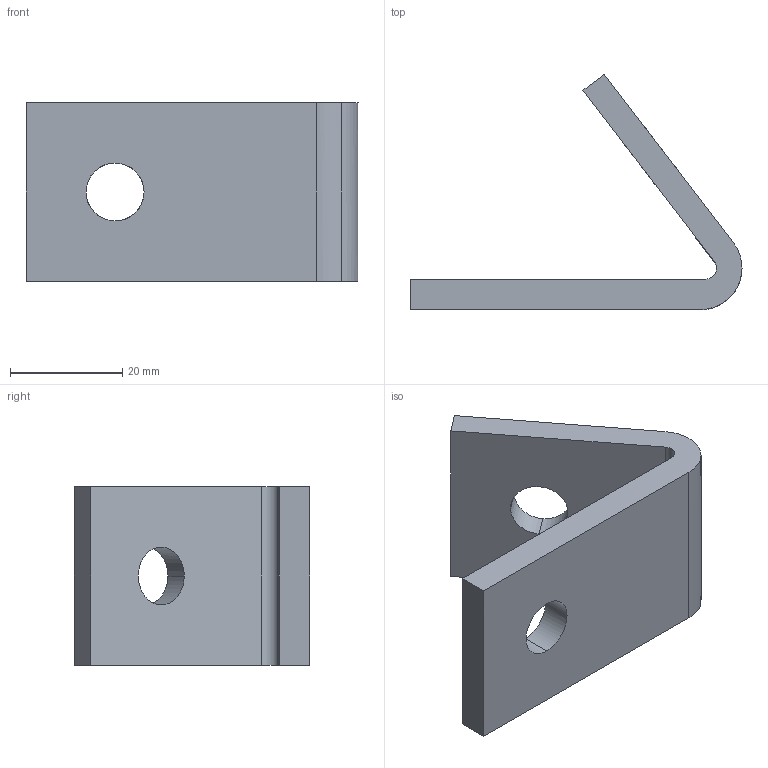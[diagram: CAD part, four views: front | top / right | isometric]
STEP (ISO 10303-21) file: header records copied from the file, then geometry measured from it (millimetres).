
FILE_DESCRIPTION(('TurboCAD Mac Pro'),'Build 980');
FILE_NAME('A2109.stp',' ',(''),(''),'ACIS Interop','IMSI','TurboCAD Mac Pro BY IMSI, INCORPORATED');
FILE_SCHEMA(('automotive_design'));
Length unit declared in the file: inch
Products named in the file (1): 1
Bounding box: 59.16 x 41.95 x 31.75 mm (x, y, z)
Volume: 15477.6 mm3; surface area: 7746.8 mm2
Topology: 1 solids, 1 shells, 20 faces, 54 edges, 36 vertices
Faces by surface type: bspline 12, plane 8
Entity records: 964 total; most frequent: CARTESIAN_POINT 339, ORIENTED_EDGE 108, DIRECTION 56, EDGE_CURVE 54, VERTEX_POINT 36, LINE 30, VECTOR 30, EDGE_LOOP 24
